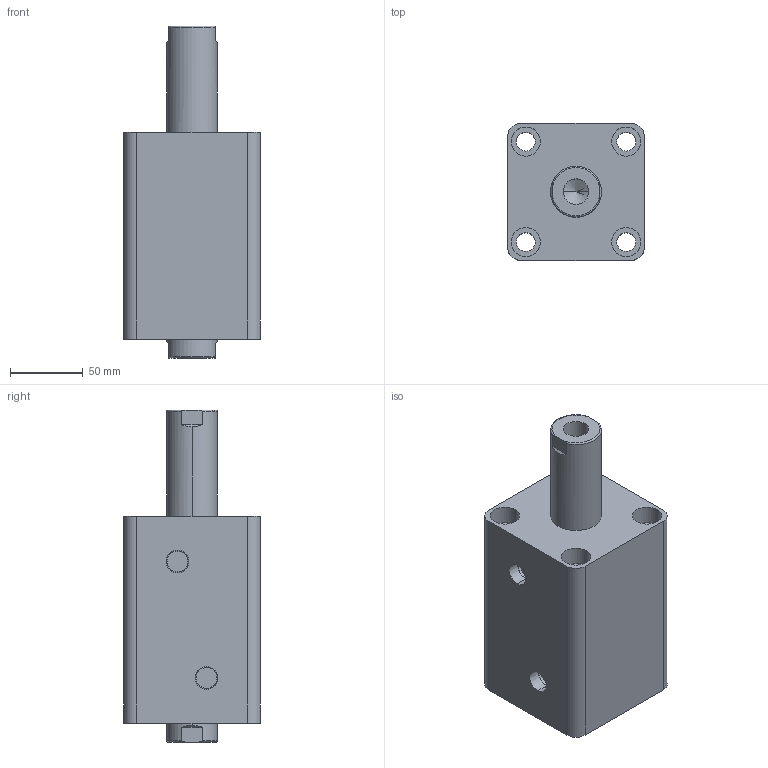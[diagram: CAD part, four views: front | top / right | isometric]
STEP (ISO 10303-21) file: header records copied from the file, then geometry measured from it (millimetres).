
FILE_DESCRIPTION (( 'STEP AP203' ), '1' );
FILE_NAME ('HTB-SW63-60N.STEP', '2019-10-07T10:06:22', ( '微软用户' ), ( '微软中国' ), 'SwSTEP 2.0', 'SolidWorks 2012', '' );
FILE_SCHEMA (( 'CONFIG_CONTROL_DESIGN' ));
Length unit declared in the file: millimetre
Products named in the file (3): HTB-SW63-60N; HTB-SW63-60N活塞杆; HTB-SW63-60掛极
Assembly tree (2 placements, depth 2):
  HTB-SW63-60N
    HTB-SW63-60掛极
    HTB-SW63-60N活塞杆
Bounding box: 94 x 94 x 228 mm (x, y, z)
Volume: 1089205.6 mm3; surface area: 154101.4 mm2
Topology: 2 solids, 2 shells, 100 faces, 228 edges, 146 vertices
Faces by surface type: cylinder 48, plane 32, torus 12, cone 8
Entity records: 3253 total; most frequent: CARTESIAN_POINT 611, DIRECTION 542, ORIENTED_EDGE 448, AXIS2_PLACEMENT_3D 229, EDGE_CURVE 224, VERTEX_POINT 146, EDGE_LOOP 128, CIRCLE 124
